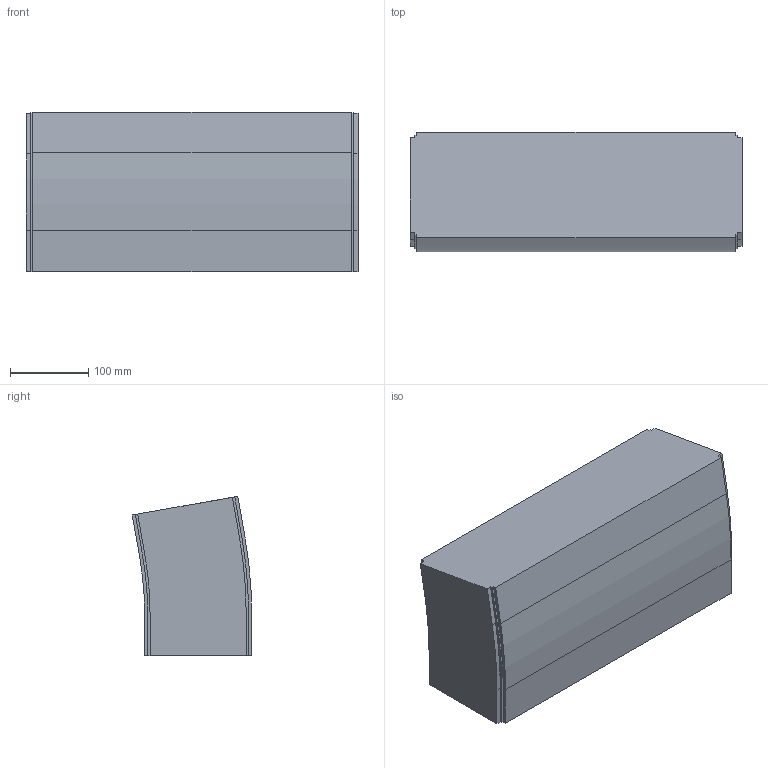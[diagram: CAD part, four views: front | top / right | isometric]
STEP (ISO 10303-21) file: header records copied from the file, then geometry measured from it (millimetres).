
FILE_DESCRIPTION (( 'STEP AP214' ), '1' );
FILE_NAME ('FS-MTC2-150-INOX verticaalbocht.420 10°.STEP', '2017-02-08T12:41:47', ( '' ), ( '' ), 'SwSTEP 2.0', 'SolidWorks 2016', '' );
FILE_SCHEMA (( 'AUTOMOTIVE_DESIGN' ));
Length unit declared in the file: millimetre
Products named in the file (1): FS-MTC2-150-INOX verticaalbocht.420 10°
Bounding box: 423 x 152.18 x 202.88 mm (x, y, z)
Volume: 11061993.2 mm3; surface area: 330215.6 mm2
Topology: 1 solids, 1 shells, 42 faces, 120 edges, 80 vertices
Faces by surface type: plane 32, cylinder 10
Entity records: 1398 total; most frequent: CARTESIAN_POINT 243, ORIENTED_EDGE 240, DIRECTION 226, EDGE_CURVE 120, VECTOR 100, LINE 100, VERTEX_POINT 80, AXIS2_PLACEMENT_3D 63
